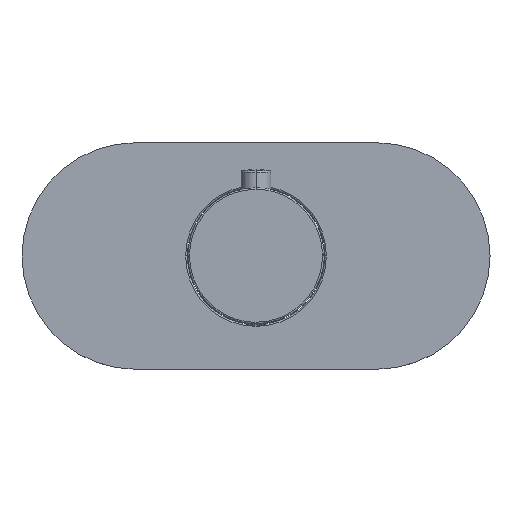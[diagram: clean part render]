
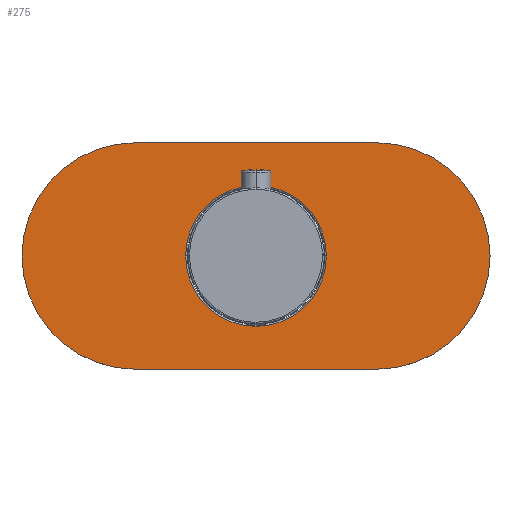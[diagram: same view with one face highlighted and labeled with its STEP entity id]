
A CAD part, top view. The second image highlights one B-rep face of the part: STEP entity #275.
In plain terms, the highlighted planar face has unit normal (0, 0, 1).
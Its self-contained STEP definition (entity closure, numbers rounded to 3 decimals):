
#151=CARTESIAN_POINT('',(25.0,-37.5,4.0));
#152=VERTEX_POINT('',#151);
#159=CARTESIAN_POINT('',(25.0,37.5,4.0));
#160=VERTEX_POINT('',#159);
#161=CARTESIAN_POINT('',(25.0,0.0,4.0));
#162=DIRECTION('',(0.0,0.0,1.0));
#163=DIRECTION('',(0.0,1.0,0.0));
#164=AXIS2_PLACEMENT_3D('',#161,#162,#163);
#165=CIRCLE('',#164,37.5);
#166=EDGE_CURVE('',#160,#152,#165,.T.);
#184=CARTESIAN_POINT('',(105.,37.5,4.0));
#185=VERTEX_POINT('',#184);
#186=CARTESIAN_POINT('',(105.,37.5,4.0));
#187=DIRECTION('',(-1.0,0.0,0.0));
#188=VECTOR('',#187,80.);
#189=LINE('',#186,#188);
#190=EDGE_CURVE('',#185,#160,#189,.T.);
#208=CARTESIAN_POINT('',(105.0,-37.5,4.0));
#209=VERTEX_POINT('',#208);
#210=CARTESIAN_POINT('',(105.0,0.0,4.0));
#211=DIRECTION('',(0.0,0.0,1.0));
#212=DIRECTION('',(0.0,-1.0,0.0));
#213=AXIS2_PLACEMENT_3D('',#210,#211,#212);
#214=CIRCLE('',#213,37.5);
#215=EDGE_CURVE('',#209,#185,#214,.T.);
#233=CARTESIAN_POINT('',(25.0,-37.5,4.0));
#234=DIRECTION('',(1.0,0.0,0.0));
#235=VECTOR('',#234,80.0);
#236=LINE('',#233,#235);
#237=EDGE_CURVE('',#152,#209,#236,.T.);
#244=CARTESIAN_POINT('',(-20.25,-41.25,4.0));
#245=DIRECTION('',(0.0,0.0,1.0));
#246=DIRECTION('',(1.0,0.0,0.0));
#247=AXIS2_PLACEMENT_3D('',#244,#245,#246);
#248=PLANE('',#247);
#249=ORIENTED_EDGE('',*,*,#237,.T.);
#250=ORIENTED_EDGE('',*,*,#215,.T.);
#251=ORIENTED_EDGE('',*,*,#190,.T.);
#252=ORIENTED_EDGE('',*,*,#166,.T.);
#253=EDGE_LOOP('',(#249,#250,#251,#252));
#254=FACE_OUTER_BOUND('',#253,.T.);
#255=CARTESIAN_POINT('',(88.3,0.0,4.0));
#256=VERTEX_POINT('',#255);
#257=CARTESIAN_POINT('',(41.7,0.0,4.0));
#258=VERTEX_POINT('',#257);
#259=CARTESIAN_POINT('',(65.0,0.0,4.0));
#260=DIRECTION('',(0.0,0.0,-1.0));
#261=DIRECTION('',(1.0,0.0,0.0));
#262=AXIS2_PLACEMENT_3D('',#259,#260,#261);
#263=CIRCLE('',#262,23.3);
#264=EDGE_CURVE('',#256,#258,#263,.T.);
#265=ORIENTED_EDGE('',*,*,#264,.T.);
#266=CARTESIAN_POINT('',(65.0,0.0,4.0));
#267=DIRECTION('',(0.0,0.0,-1.0));
#268=DIRECTION('',(-1.0,0.0,0.0));
#269=AXIS2_PLACEMENT_3D('',#266,#267,#268);
#270=CIRCLE('',#269,23.3);
#271=EDGE_CURVE('',#258,#256,#270,.T.);
#272=ORIENTED_EDGE('',*,*,#271,.T.);
#273=EDGE_LOOP('',(#265,#272));
#274=FACE_BOUND('',#273,.T.);
#275=ADVANCED_FACE('',(#254,#274),#248,.T.);
